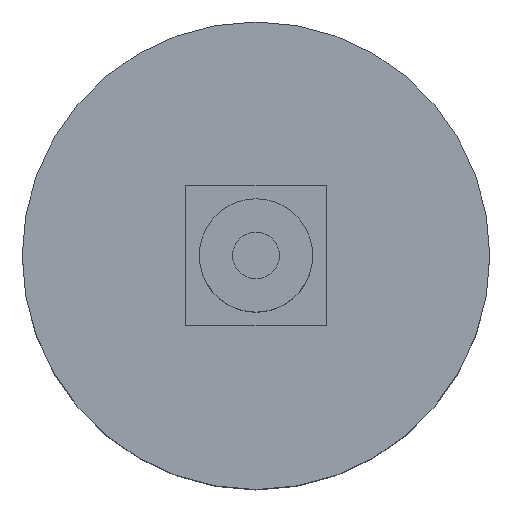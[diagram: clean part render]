
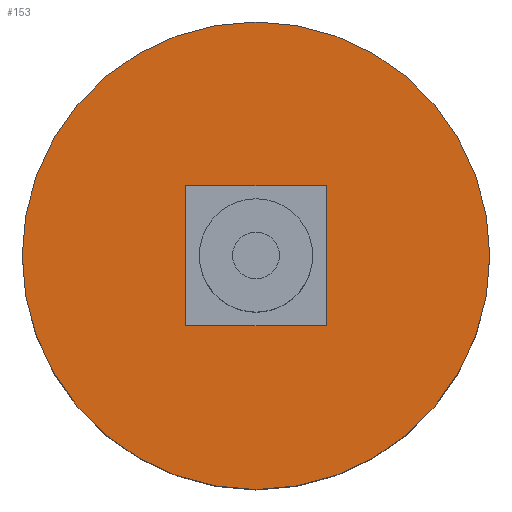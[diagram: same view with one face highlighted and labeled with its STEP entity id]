
A CAD part, top view. The second image highlights one B-rep face of the part: STEP entity #153.
In plain terms, the highlighted planar face has unit normal (0, 0, 1).
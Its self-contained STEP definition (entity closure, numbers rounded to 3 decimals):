
#6 = VERTEX_POINT ( 'NONE', #391 ) ;
#13 = ORIENTED_EDGE ( 'NONE', *, *, #97, .F. ) ;
#30 = CARTESIAN_POINT ( 'NONE',  ( 0., 0., 25. ) ) ;
#33 = CARTESIAN_POINT ( 'NONE',  ( -6., 6., 25. ) ) ;
#45 = ORIENTED_EDGE ( 'NONE', *, *, #286, .T. ) ;
#70 = CARTESIAN_POINT ( 'NONE',  ( 0., 0., 25. ) ) ;
#71 = CARTESIAN_POINT ( 'NONE',  ( -20., 0., 25. ) ) ;
#73 = LINE ( 'NONE', #117, #79 ) ;
#75 = CIRCLE ( 'NONE', #375, 20. ) ;
#79 = VECTOR ( 'NONE', #423, 1000. ) ;
#86 = EDGE_CURVE ( 'NONE', #189, #6, #443, .T. ) ;
#96 = CARTESIAN_POINT ( 'NONE',  ( 0., 0., 25. ) ) ;
#97 = EDGE_CURVE ( 'NONE', #132, #155, #405, .T. ) ;
#100 = CARTESIAN_POINT ( 'NONE',  ( -6., 6., 25. ) ) ;
#103 = CARTESIAN_POINT ( 'NONE',  ( 6., -6., 25. ) ) ;
#107 = PLANE ( 'NONE',  #289 ) ;
#117 = CARTESIAN_POINT ( 'NONE',  ( -6., -6., 25. ) ) ;
#124 = EDGE_CURVE ( 'NONE', #317, #237, #397, .T. ) ;
#132 = VERTEX_POINT ( 'NONE', #103 ) ;
#153 = ADVANCED_FACE ( 'NONE', ( #446, #372 ), #107, .T. ) ;
#155 = VERTEX_POINT ( 'NONE', #215 ) ;
#166 = EDGE_CURVE ( 'NONE', #155, #189, #224, .T. ) ;
#189 = VERTEX_POINT ( 'NONE', #100 ) ;
#197 = VECTOR ( 'NONE', #362, 1000. ) ;
#214 = DIRECTION ( 'NONE',  ( 0., 0., 1. ) ) ;
#215 = CARTESIAN_POINT ( 'NONE',  ( 6., 6., 25. ) ) ;
#218 = EDGE_CURVE ( 'NONE', #6, #132, #73, .T. ) ;
#223 = AXIS2_PLACEMENT_3D ( 'NONE', #30, #409, #333 ) ;
#224 = LINE ( 'NONE', #33, #197 ) ;
#233 = EDGE_LOOP ( 'NONE', ( #350, #45 ) ) ;
#237 = VERTEX_POINT ( 'NONE', #383 ) ;
#254 = DIRECTION ( 'NONE',  ( 0., 1., 0. ) ) ;
#270 = EDGE_LOOP ( 'NONE', ( #13, #279, #464, #394 ) ) ;
#279 = ORIENTED_EDGE ( 'NONE', *, *, #218, .F. ) ;
#286 = EDGE_CURVE ( 'NONE', #237, #317, #75, .T. ) ;
#288 = CARTESIAN_POINT ( 'NONE',  ( 6., 6., 25. ) ) ;
#289 = AXIS2_PLACEMENT_3D ( 'NONE', #70, #214, #334 ) ;
#304 = DIRECTION ( 'NONE',  ( 1., 0., 0. ) ) ;
#317 = VERTEX_POINT ( 'NONE', #71 ) ;
#331 = CARTESIAN_POINT ( 'NONE',  ( -6., 6., 25. ) ) ;
#333 = DIRECTION ( 'NONE',  ( 1., 0., 0. ) ) ;
#334 = DIRECTION ( 'NONE',  ( 1., 0., 0. ) ) ;
#345 = DIRECTION ( 'NONE',  ( 0., 0., 1. ) ) ;
#350 = ORIENTED_EDGE ( 'NONE', *, *, #124, .T. ) ;
#356 = VECTOR ( 'NONE', #254, 1000. ) ;
#362 = DIRECTION ( 'NONE',  ( -1., 0., 0. ) ) ;
#372 = FACE_OUTER_BOUND ( 'NONE', #233, .T. ) ;
#375 = AXIS2_PLACEMENT_3D ( 'NONE', #96, #345, #304 ) ;
#383 = CARTESIAN_POINT ( 'NONE',  ( 20., 0., 25. ) ) ;
#391 = CARTESIAN_POINT ( 'NONE',  ( -6., -6., 25. ) ) ;
#394 = ORIENTED_EDGE ( 'NONE', *, *, #166, .F. ) ;
#397 = CIRCLE ( 'NONE', #223, 20. ) ;
#400 = DIRECTION ( 'NONE',  ( 0., -1., 0. ) ) ;
#405 = LINE ( 'NONE', #288, #356 ) ;
#409 = DIRECTION ( 'NONE',  ( 0., 0., 1. ) ) ;
#423 = DIRECTION ( 'NONE',  ( 1., 0., 0. ) ) ;
#443 = LINE ( 'NONE', #331, #462 ) ;
#446 = FACE_BOUND ( 'NONE', #270, .T. ) ;
#462 = VECTOR ( 'NONE', #400, 1000. ) ;
#464 = ORIENTED_EDGE ( 'NONE', *, *, #86, .F. ) ;
